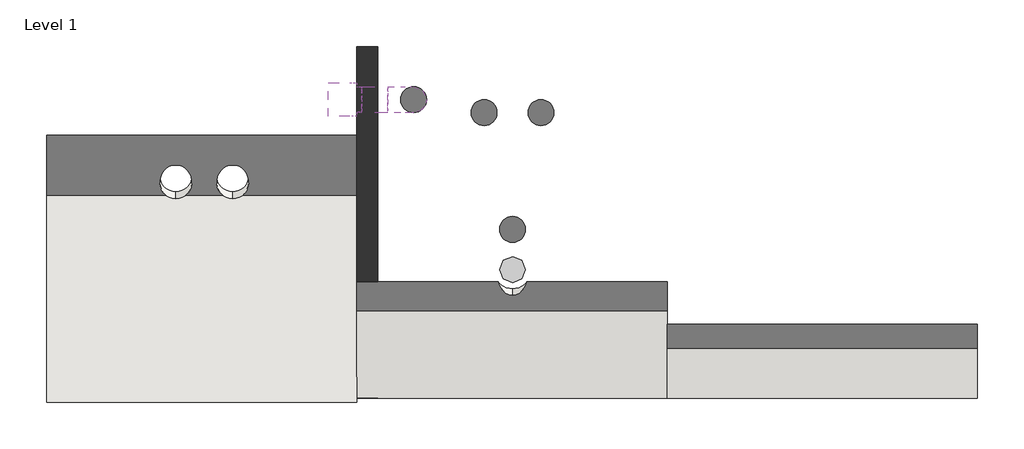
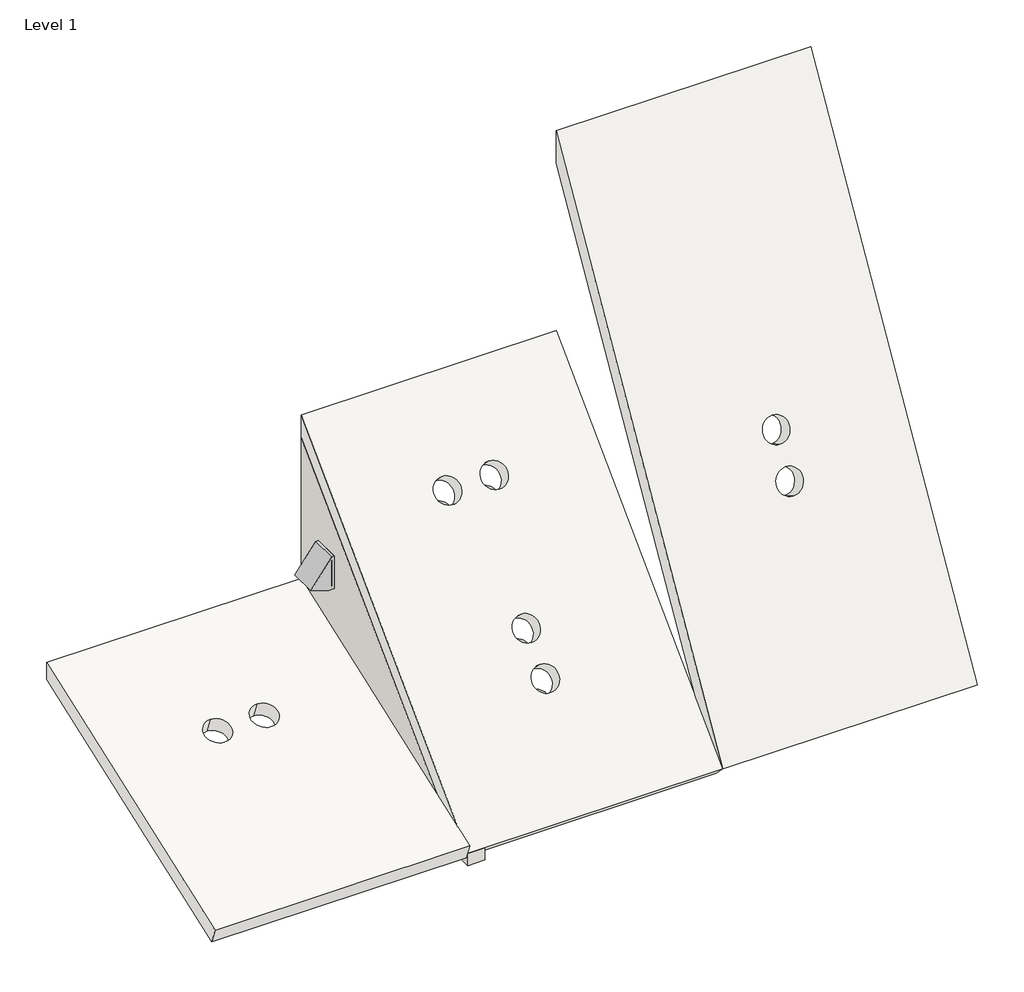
# One storey, incomplete: 6 duct segments, 3 roofs, 1 air terminal, 1 duct fitting, 1 wall.
"""IFC4 building model written with IfcOpenShell, lengths in millimetres."""

from ifc_helpers import new_model, si_unit, point, frame, frame_2d, origin, place, context, project, spatial, polyline, circle_curve, trimmed, segment, composite_curve, outline, extrude, transform, mapped, element, save
from ifc_brep_helpers import plane_surface, revolved_surface, advanced_brep
from components import air_terminal_0787e866, m_round_elbow_1_d_a3c698fd

model = new_model("IFC4")

# Units and contexts
model_context = context("Model", 3, world=origin())
ifc_project = project(units=[si_unit("LENGTHUNIT", "METRE", prefix="MILLI")], contexts=[model_context])

# Site, building, storey
site = spatial("IfcSite", under=ifc_project)
building = spatial("IfcBuilding", under=site)
storey = spatial("IfcBuildingStorey", under=building, Name="Level 1", Elevation=0.0)

# Air terminal
placement = place(None, origin())
air_terminal_shape = air_terminal_0787e866(model_context)
element("IfcAirTerminal", 1, ObjectType="NLRS_57_AIR_WPB_Elytra_WT_M&G : 324 x 404 x 278 - Ø 250 mm", at=placement, inside=storey, context=model_context, shape_type="MappedRepresentation", body=[
    mapped(air_terminal_shape, transform((6311.6571684, -3443.7612868, 2205.5429823), x_axis=(0.0, -1.0, 0.0), y_axis=(1.0, 0.0, 0.0), z_axis=(0.0, 0.0, 1.0))),
])

# Duct fitting
m_round_elbow_1_d_shape = m_round_elbow_1_d_a3c698fd(model_context)
element("IfcDuctFitting", 2, ObjectType="M_Round Elbow : 1 D", at=placement, inside=storey, context=model_context, shape_type="MappedRepresentation", body=[
    mapped(m_round_elbow_1_d_shape, transform((6860.6571684, -3443.7612868, 2205.5429823), x_axis=(1.0, 0.0, 0.0), y_axis=(0.0, 0.0, -1.0), z_axis=(0.0, 1.0, 0.0))),
])

# Duct segments
element("IfcDuctSegment", 3, ObjectType="Default", at=placement, inside=storey, context=model_context, shape_type="SweptSolid", body=[
    extrude(outline(composite_curve([segment(trimmed(circle_curve(frame_2d((7816.6039478, -5086.8196596)), 125.0), [point((7816.6039478, -4961.8196596))], [point((7941.6039478, -5086.8196596))], False, "CARTESIAN"), True, "CONTINUOUS"), segment(trimmed(circle_curve(frame_2d((7816.6039478, -5086.8196596)), 125.0), [point((7941.6039478, -5086.8196596))], [point((7816.6039478, -5211.8196596))], False, "CARTESIAN"), True, "CONTINUOUS"), segment(trimmed(circle_curve(frame_2d((7816.6039478, -5086.8196596)), 125.0), [point((7816.6039478, -5211.8196596))], [point((7691.6039478, -5086.8196596))], False, "CARTESIAN"), True, "CONTINUOUS"), segment(trimmed(circle_curve(frame_2d((7816.6039478, -5086.8196596)), 125.0), [point((7691.6039478, -5086.8196596))], [point((7816.6039478, -4961.8196596))], False, "CARTESIAN"), True, "CONTINUOUS")], self_intersect=False)), frame((0.0, 0.0, 285.3553391), z_axis=(0.0, 0.0, 1.0), x_axis=(1.0, 0.0, 0.0)), (0.0, 0.0, 1.0), 758.1917399),
])
element("IfcDuctSegment", 4, ObjectType="Default", at=placement, inside=storey, context=model_context, shape_type="SweptSolid", body=[
    extrude(outline(composite_curve([segment(trimmed(circle_curve(frame_2d((7816.6039478, -4697.9109299)), 125.0), [point((7816.6039478, -4572.9109299))], [point((7941.6039478, -4697.9109299))], False, "CARTESIAN"), True, "CONTINUOUS"), segment(trimmed(circle_curve(frame_2d((7816.6039478, -4697.9109299)), 125.0), [point((7941.6039478, -4697.9109299))], [point((7816.6039478, -4822.9109299))], False, "CARTESIAN"), True, "CONTINUOUS"), segment(trimmed(circle_curve(frame_2d((7816.6039478, -4697.9109299)), 125.0), [point((7816.6039478, -4822.9109299))], [point((7691.6039478, -4697.9109299))], False, "CARTESIAN"), True, "CONTINUOUS"), segment(trimmed(circle_curve(frame_2d((7816.6039478, -4697.9109299)), 125.0), [point((7691.6039478, -4697.9109299))], [point((7816.6039478, -4572.9109299))], False, "CARTESIAN"), True, "CONTINUOUS")], self_intersect=False)), frame((0.0, 0.0, 285.3553391), z_axis=(0.0, 0.0, 1.0), x_axis=(1.0, 0.0, 0.0)), (0.0, 0.0, 1.0), 1147.1004696),
])
element("IfcDuctSegment", 5, ObjectType="Default", at=placement, inside=storey, context=model_context, shape_type="SweptSolid", body=[
    extrude(outline(composite_curve([segment(trimmed(circle_curve(frame_2d((8091.6039478, -3568.7612868)), 125.0), [point((8091.6039478, -3443.7612868))], [point((8216.6039478, -3568.7612868))], False, "CARTESIAN"), True, "CONTINUOUS"), segment(trimmed(circle_curve(frame_2d((8091.6039478, -3568.7612868)), 125.0), [point((8216.6039478, -3568.7612868))], [point((8091.6039478, -3693.7612868))], False, "CARTESIAN"), True, "CONTINUOUS"), segment(trimmed(circle_curve(frame_2d((8091.6039478, -3568.7612868)), 125.0), [point((8091.6039478, -3693.7612868))], [point((7966.6039478, -3568.7612868))], False, "CARTESIAN"), True, "CONTINUOUS"), segment(trimmed(circle_curve(frame_2d((8091.6039478, -3568.7612868)), 125.0), [point((7966.6039478, -3568.7612868))], [point((8091.6039478, -3443.7612868))], False, "CARTESIAN"), True, "CONTINUOUS")], self_intersect=False)), frame((0.0, 0.0, 285.3553391), z_axis=(0.0, 0.0, 1.0), x_axis=(1.0, 0.0, 0.0)), (0.0, 0.0, 1.0), 2276.2501128),
])
element("IfcDuctSegment", 6, ObjectType="Default", at=placement, inside=storey, context=model_context, shape_type="SweptSolid", body=[
    extrude(outline(composite_curve([segment(trimmed(circle_curve(frame_2d((7541.6039478, -3568.7612868)), 125.0), [point((7541.6039478, -3443.7612868))], [point((7666.6039478, -3568.7612868))], False, "CARTESIAN"), True, "CONTINUOUS"), segment(trimmed(circle_curve(frame_2d((7541.6039478, -3568.7612868)), 125.0), [point((7666.6039478, -3568.7612868))], [point((7541.6039478, -3693.7612868))], False, "CARTESIAN"), True, "CONTINUOUS"), segment(trimmed(circle_curve(frame_2d((7541.6039478, -3568.7612868)), 125.0), [point((7541.6039478, -3693.7612868))], [point((7416.6039478, -3568.7612868))], False, "CARTESIAN"), True, "CONTINUOUS"), segment(trimmed(circle_curve(frame_2d((7541.6039478, -3568.7612868)), 125.0), [point((7416.6039478, -3568.7612868))], [point((7541.6039478, -3443.7612868))], False, "CARTESIAN"), True, "CONTINUOUS")], self_intersect=False)), frame((0.0, 0.0, 285.3553391), z_axis=(0.0, 0.0, 1.0), x_axis=(1.0, 0.0, 0.0)), (0.0, 0.0, 1.0), 2276.2501128),
])
element("IfcDuctSegment", 7, ObjectType="Default", at=placement, inside=storey, context=model_context, shape_type="SweptSolid", body=[
    extrude(outline(composite_curve([segment(trimmed(circle_curve(frame_2d((-3443.7612868, 2205.5429823)), 125.0), [point((-3568.7612868, 2205.5429823))], [point((-3443.7612868, 2330.5429823))], False, "CARTESIAN"), True, "CONTINUOUS"), segment(trimmed(circle_curve(frame_2d((-3443.7612868, 2205.5429823)), 125.0), [point((-3443.7612868, 2330.5429823))], [point((-3318.7612868, 2205.5429823))], False, "CARTESIAN"), True, "CONTINUOUS"), segment(trimmed(circle_curve(frame_2d((-3443.7612868, 2205.5429823)), 125.0), [point((-3318.7612868, 2205.5429823))], [point((-3443.7612868, 2080.5429823))], False, "CARTESIAN"), True, "CONTINUOUS"), segment(trimmed(circle_curve(frame_2d((-3443.7612868, 2205.5429823)), 125.0), [point((-3443.7612868, 2080.5429823))], [point((-3568.7612868, 2205.5429823))], False, "CARTESIAN"), True, "CONTINUOUS")], self_intersect=False)), frame((6360.6571684, 0.0, 0.0), z_axis=(1.0, 0.0, 0.0), x_axis=(0.0, 1.0, 0.0)), (0.0, 0.0, 1.0), 250.0),
])
element("IfcDuctSegment", 8, ObjectType="Default", at=placement, inside=storey, context=model_context, shape_type="SweptSolid", body=[
    extrude(outline(composite_curve([segment(trimmed(circle_curve(frame_2d((6860.6571684, -3443.7612868)), 125.0), [point((6860.6571684, -3318.7612868))], [point((6985.6571684, -3443.7612868))], False, "CARTESIAN"), True, "CONTINUOUS"), segment(trimmed(circle_curve(frame_2d((6860.6571684, -3443.7612868)), 125.0), [point((6985.6571684, -3443.7612868))], [point((6860.6571684, -3568.7612868))], False, "CARTESIAN"), True, "CONTINUOUS"), segment(trimmed(circle_curve(frame_2d((6860.6571684, -3443.7612868)), 125.0), [point((6860.6571684, -3568.7612868))], [point((6735.6571684, -3443.7612868))], False, "CARTESIAN"), True, "CONTINUOUS"), segment(trimmed(circle_curve(frame_2d((6860.6571684, -3443.7612868)), 125.0), [point((6735.6571684, -3443.7612868))], [point((6860.6571684, -3318.7612868))], False, "CARTESIAN"), True, "CONTINUOUS")], self_intersect=False)), frame((0.0, 0.0, 285.3553391), z_axis=(0.0, 0.0, 1.0), x_axis=(1.0, 0.0, 0.0)), (0.0, 0.0, 1.0), 1670.1876432),
])

# Roofs
element("IfcRoof", 9, ObjectType="Roof 1", at=placement, inside=storey, context=model_context, shape_type="AdvancedBrep", body=[
    advanced_brep(
    [(9311.6571684, -2930.1684687, 3759.1192285), (9311.6571684, -6330.1684687, 359.1192285), (9311.6571684, -6188.7471125, 217.6978723), (9311.6571684, -2930.1684687, 3476.276516), (6311.6571684, -6330.1684687, 359.1192285), (6311.6571684, -2930.1684687, 3759.1192285), (6311.6571684, -2930.1684687, 3476.276516), (6311.6571684, -6188.7471125, 217.6978723), (7816.6039478, -5192.17857, 1497.1091272), (7816.6039478, -5411.3816722, 1277.9060251), (7816.6039478, -4803.2698403, 1886.0178569), (7816.6039478, -5022.4729425, 1666.8147547), (7541.6039478, -3674.1201972, 3015.1675001), (7541.6039478, -3893.3232993, 2795.9643979), (8091.6039478, -3674.1201972, 3015.1675001), (8091.6039478, -3893.3232993, 2795.9643979), (6511.6571684, -2930.1684687, 3476.276516), (6511.6571684, -6188.7471125, 217.6978723), (7816.6039478, -5269.9603159, 1136.4846688), (7816.6039478, -5050.7572138, 1355.687771), (7816.6039478, -4881.0515863, 1525.3933985), (7816.6039478, -4661.8484841, 1744.5965006), (7541.6039478, -3751.9019431, 2654.5430417), (7541.6039478, -3532.6988409, 2873.7461438), (8091.6039478, -3751.9019431, 2654.5430417), (8091.6039478, -3532.6988409, 2873.7461438)],
    [
        (0, 1),
        (1, 2),
        (2, 3),
        (3, 0),
        (4, 5),
        (5, 6),
        (6, 7),
        (7, 4),
        (0, 5),
        (4, 1),
        (8, 9, circle_curve(frame((7816.6039478, -5301.7801211, 1387.5075761), z_axis=(0.0, 0.707106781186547, -0.707106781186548), x_axis=(0.0, -0.707106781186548, -0.707106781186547)), 155.0)),
        (9, 8, circle_curve(frame((7816.6039478, -5301.7801211, 1387.5075761), z_axis=(0.0, 0.707106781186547, -0.707106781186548), x_axis=(0.0, -0.707106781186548, -0.707106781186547)), 155.0)),
        (10, 11, circle_curve(frame((7816.6039478, -4912.8713914, 1776.4163058), z_axis=(0.0, 0.707106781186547, -0.707106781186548), x_axis=(0.0, -0.707106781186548, -0.707106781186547)), 155.0)),
        (11, 10, circle_curve(frame((7816.6039478, -4912.8713914, 1776.4163058), z_axis=(0.0, 0.707106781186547, -0.707106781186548), x_axis=(0.0, -0.707106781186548, -0.707106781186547)), 155.0)),
        (12, 13, circle_curve(frame((7541.6039478, -3783.7217482, 2905.565949), z_axis=(0.0, 0.707106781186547, -0.707106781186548), x_axis=(0.0, -0.707106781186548, -0.707106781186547)), 155.0)),
        (13, 12, circle_curve(frame((7541.6039478, -3783.7217482, 2905.565949), z_axis=(0.0, 0.707106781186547, -0.707106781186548), x_axis=(0.0, -0.707106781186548, -0.707106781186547)), 155.0)),
        (14, 15, circle_curve(frame((8091.6039478, -3783.7217482, 2905.565949), z_axis=(0.0, 0.707106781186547, -0.707106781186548), x_axis=(0.0, -0.707106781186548, -0.707106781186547)), 155.0)),
        (15, 14, circle_curve(frame((8091.6039478, -3783.7217482, 2905.565949), z_axis=(0.0, 0.707106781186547, -0.707106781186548), x_axis=(0.0, -0.707106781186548, -0.707106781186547)), 155.0)),
        (6, 16),
        (16, 3),
        (2, 17),
        (17, 7),
        (18, 19, circle_curve(frame((7816.6039478, -5160.3587648, 1246.0862199), z_axis=(0.0, -0.707106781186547, 0.707106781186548), x_axis=(0.0, -0.707106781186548, -0.707106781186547)), 155.0)),
        (19, 18, circle_curve(frame((7816.6039478, -5160.3587648, 1246.0862199), z_axis=(0.0, -0.707106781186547, 0.707106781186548), x_axis=(0.0, -0.707106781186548, -0.707106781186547)), 155.0)),
        (20, 21, circle_curve(frame((7816.6039478, -4771.4500352, 1634.9949496), z_axis=(0.0, -0.707106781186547, 0.707106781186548), x_axis=(0.0, -0.707106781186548, -0.707106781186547)), 155.0)),
        (21, 20, circle_curve(frame((7816.6039478, -4771.4500352, 1634.9949496), z_axis=(0.0, -0.707106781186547, 0.707106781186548), x_axis=(0.0, -0.707106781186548, -0.707106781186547)), 155.0)),
        (22, 23, circle_curve(frame((7541.6039478, -3642.300392, 2764.1445927), z_axis=(0.0, -0.707106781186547, 0.707106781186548), x_axis=(0.0, -0.707106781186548, -0.707106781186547)), 155.0)),
        (23, 22, circle_curve(frame((7541.6039478, -3642.300392, 2764.1445927), z_axis=(0.0, -0.707106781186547, 0.707106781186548), x_axis=(0.0, -0.707106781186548, -0.707106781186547)), 155.0)),
        (24, 25, circle_curve(frame((8091.6039478, -3642.300392, 2764.1445927), z_axis=(0.0, -0.707106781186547, 0.707106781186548), x_axis=(0.0, -0.707106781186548, -0.707106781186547)), 155.0)),
        (25, 24, circle_curve(frame((8091.6039478, -3642.300392, 2764.1445927), z_axis=(0.0, -0.707106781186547, 0.707106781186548), x_axis=(0.0, -0.707106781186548, -0.707106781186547)), 155.0)),
        (18, 9),
        (8, 19),
        (20, 11),
        (10, 21),
        (22, 13),
        (12, 23),
        (24, 15),
        (14, 25),
    ],
    [
        plane_surface(frame((9311.6571684, -6457.3033668, 231.9843304), z_axis=(1.0, 0.0, 0.0), x_axis=(0.0, -0.707106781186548, -0.707106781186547))),
        plane_surface(frame((6311.6571684, -6457.3033668, 231.9843304), z_axis=(-1.0, 0.0, 0.0), x_axis=(0.0, 0.707106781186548, 0.707106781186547))),
        plane_surface(frame((9311.6571684, -2930.1684687, 3759.1192285), z_axis=(0.0, -0.707106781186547, 0.707106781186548), x_axis=(-1.0, 0.0, 0.0))),
        plane_surface(frame((9311.6571684, -6330.1684687, 76.276516), z_axis=(0.0, 0.707106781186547, -0.707106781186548), x_axis=(-1.0, 0.0, 0.0))),
        plane_surface(frame((9311.6571684, -2930.1684687, 3476.276516), z_axis=(0.0, 1.0, 0.0), x_axis=(-1.0, 0.0, 0.0))),
        plane_surface(frame((6311.6571684, -6330.1684687, 359.1192285), z_axis=(0.0, -0.7071067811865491, -0.7071067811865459), x_axis=(1.0, 0.0, 0.0))),
        revolved_surface(polyline([(7816.6039478, -5269.960315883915, 1136.484668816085), (7816.6039478, -5411.381672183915, 1277.9060251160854)]), (7816.6039478, -5160.3587648, 1246.0862199), (0.0, 0.707106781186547, -0.707106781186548)),
        revolved_surface(polyline([(7816.6039478, -4881.051586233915, 1525.3933984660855), (7816.6039478, -5022.472942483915, 1666.8147547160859)]), (7816.6039478, -4771.4500352, 1634.9949496), (0.0, 0.707106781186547, -0.707106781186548)),
        revolved_surface(polyline([(7541.6039478, -3751.901943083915, 2654.5430416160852), (7541.6039478, -3893.3232993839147, 2795.964397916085)]), (7541.6039478, -3642.300392, 2764.1445927), (0.0, 0.707106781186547, -0.707106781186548)),
        revolved_surface(polyline([(8091.6039478, -3751.901943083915, 2654.5430416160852), (8091.6039478, -3893.3232993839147, 2795.964397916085)]), (8091.6039478, -3642.300392, 2764.1445927), (0.0, 0.707106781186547, -0.707106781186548)),
    ],
    [
        (0, [[1, 2, 3, 4]]),
        (1, [[5, 6, 7, 8]]),
        (2, [[-1, 9, -5, 10], [11, 12], [13, 14], [15, 16], [17, 18]]),
        (3, [[19, 20, -3, 21, 22, -7], [23, 24], [25, 26], [27, 28], [29, 30]]),
        (4, [[-4, -20, -19, -6, -9]]),
        (5, [[-2, -10, -8, -22, -21]]),
        (6, [[31, -11, 32, -23]]),
        (6, [[-31, -24, -32, -12]]),
        (7, [[33, -13, 34, -25]]),
        (7, [[-33, -26, -34, -14]]),
        (8, [[35, -15, 36, -27]]),
        (8, [[-35, -28, -36, -16]]),
        (9, [[37, -17, 38, -29]]),
        (9, [[-37, -30, -38, -18]]),
    ],
),
])
element("IfcRoof", 10, ObjectType="Roof 1", at=placement, inside=storey, context=model_context, shape_type="AdvancedBrep", body=[
    advanced_brep(
    [(12311.6571684, -2930.1684687, 6248.0919742), (12311.6571684, -6330.1684687, 359.1192285), (12311.6571684, -6156.963388, 259.1192285), (12311.6571684, -2930.1684687, 5848.0919742), (9311.6571684, -6330.1684687, 359.1192285), (9311.6571684, -2930.1684687, 6248.0919742), (9311.6571684, -2930.1684687, 5848.0919742), (9311.6571684, -6156.963388, 259.1192285), (10852.3867815, -4950.1684687, 2749.3493429), (10852.3867815, -5105.1684687, 2480.8814678), (10852.3867815, -4675.1684687, 3225.663315), (10852.3867815, -4830.1684687, 2957.1954398), (10852.3867815, -4931.963388, 2380.8814678), (10852.3867815, -4776.963388, 2649.3493429), (10852.3867815, -4656.963388, 2857.1954398), (10852.3867815, -4501.963388, 3125.663315)],
    [
        (0, 1),
        (1, 2),
        (2, 3),
        (3, 0),
        (4, 5),
        (5, 6),
        (6, 7),
        (7, 4),
        (0, 5),
        (4, 1),
        (8, 9, circle_curve(frame((10852.3867815, -5027.6684687, 2615.1154054), z_axis=(0.0, 0.866025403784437, -0.500000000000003), x_axis=(0.0, -0.500000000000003, -0.866025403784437)), 155.0)),
        (9, 8, circle_curve(frame((10852.3867815, -5027.6684687, 2615.1154054), z_axis=(0.0, 0.866025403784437, -0.500000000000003), x_axis=(0.0, -0.500000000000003, -0.866025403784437)), 155.0)),
        (10, 11, circle_curve(frame((10852.3867815, -4752.6684687, 3091.4293774), z_axis=(0.0, 0.866025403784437, -0.500000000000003), x_axis=(0.0, -0.500000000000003, -0.866025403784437)), 155.0)),
        (11, 10, circle_curve(frame((10852.3867815, -4752.6684687, 3091.4293774), z_axis=(0.0, 0.866025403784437, -0.500000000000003), x_axis=(0.0, -0.500000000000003, -0.866025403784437)), 155.0)),
        (6, 3),
        (2, 7),
        (12, 13, circle_curve(frame((10852.3867815, -4854.463388, 2515.1154054), z_axis=(0.0, -0.866025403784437, 0.500000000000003), x_axis=(0.0, -0.500000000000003, -0.866025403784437)), 155.0)),
        (13, 12, circle_curve(frame((10852.3867815, -4854.463388, 2515.1154054), z_axis=(0.0, -0.866025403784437, 0.500000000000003), x_axis=(0.0, -0.500000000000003, -0.866025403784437)), 155.0)),
        (14, 15, circle_curve(frame((10852.3867815, -4579.463388, 2991.4293774), z_axis=(0.0, -0.866025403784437, 0.500000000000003), x_axis=(0.0, -0.500000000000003, -0.866025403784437)), 155.0)),
        (15, 14, circle_curve(frame((10852.3867815, -4579.463388, 2991.4293774), z_axis=(0.0, -0.866025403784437, 0.500000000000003), x_axis=(0.0, -0.500000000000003, -0.866025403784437)), 155.0)),
        (12, 9),
        (8, 13),
        (14, 11),
        (10, 15),
    ],
    [
        plane_surface(frame((12311.6571684, -6330.1684687, 359.1192285), z_axis=(1.0000000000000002, 0.0, 0.0), x_axis=(0.0, -0.500000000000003, -0.866025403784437))),
        plane_surface(frame((9311.6571684, -6330.1684687, 359.1192285), z_axis=(-1.0000000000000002, 0.0, 0.0), x_axis=(0.0, 0.500000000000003, 0.866025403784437))),
        plane_surface(frame((12311.6571684, -2930.1684687, 6248.0919742), z_axis=(0.0, -0.866025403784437, 0.500000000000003), x_axis=(-1.0, 0.0, 0.0))),
        plane_surface(frame((12311.6571684, -6330.1684687, -40.8807715), z_axis=(0.0, 0.866025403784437, -0.500000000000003), x_axis=(-1.0, 0.0, 0.0))),
        plane_surface(frame((12311.6571684, -2930.1684687, 5848.0919742), z_axis=(0.0, 1.0, 0.0), x_axis=(-1.0, 0.0, 0.0))),
        plane_surface(frame((9311.6571684, -6330.1684687, 359.1192285), z_axis=(0.0, -0.5000000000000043, -0.8660254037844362), x_axis=(1.0, 0.0, 0.0))),
        revolved_surface(polyline([(10852.3867815, -4931.963387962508, 2380.8814677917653), (10852.3867815, -5105.168468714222, 2480.8814677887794)]), (10852.3867815, -4854.463388, 2515.1154054), (0.0, 0.866025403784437, -0.500000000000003)),
        revolved_surface(polyline([(10852.3867815, -4656.963387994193, 2857.195439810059), (10852.3867815, -4830.16846872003, 2957.1954397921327)]), (10852.3867815, -4579.463388, 2991.4293774), (0.0, 0.866025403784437, -0.500000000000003)),
    ],
    [
        (0, [[1, 2, 3, 4]]),
        (1, [[5, 6, 7, 8]]),
        (2, [[-1, 9, -5, 10], [11, 12], [13, 14]]),
        (3, [[15, -3, 16, -7], [17, 18], [19, 20]]),
        (4, [[-4, -15, -6, -9]]),
        (5, [[-2, -10, -8, -16]]),
        (6, [[21, -11, 22, -17]]),
        (6, [[-21, -18, -22, -12]]),
        (7, [[23, -13, 24, -19]]),
        (7, [[-23, -20, -24, -14]]),
    ],
),
])
element("IfcRoof", 11, ObjectType="Roof 1", at=placement, inside=storey, context=model_context, shape_type="AdvancedBrep", body=[
    advanced_brep(
    [(6311.6571684, -2930.1684687, 1725.3103422), (6311.6571684, -6366.5678323, 474.5632608), (6311.6571684, -6298.1638036, 286.6247366), (6311.6571684, -2930.1684687, 1512.4747877), (3311.6571684, -6366.5678323, 474.5632608), (3311.6571684, -2930.1684687, 1725.3103422), (3311.6571684, -2930.1684687, 1512.4747877), (3311.6571684, -6298.1638036, 286.6247366), (4561.0073445, -4110.2752519, 1295.7865998), (4561.0073445, -4401.5799644, 1189.7603554), (5111.0073445, -4110.2752519, 1295.7865998), (5111.0073445, -4401.5799644, 1189.7603554), (4561.0073445, -4333.1759357, 1001.8218313), (4561.0073445, -4041.8712233, 1107.8480757), (5111.0073445, -4333.1759357, 1001.8218313), (5111.0073445, -4041.8712233, 1107.8480757)],
    [
        (0, 1),
        (1, 2),
        (2, 3),
        (3, 0),
        (4, 5),
        (5, 6),
        (6, 7),
        (7, 4),
        (0, 5),
        (4, 1),
        (8, 9, circle_curve(frame((4561.0073445, -4255.9276082, 1242.7734776), z_axis=(0.0, 0.3420201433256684, -0.9396926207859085), x_axis=(0.0, -0.9396926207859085, -0.3420201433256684)), 155.0)),
        (9, 8, circle_curve(frame((4561.0073445, -4255.9276082, 1242.7734776), z_axis=(0.0, 0.3420201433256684, -0.9396926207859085), x_axis=(0.0, -0.9396926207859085, -0.3420201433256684)), 155.0)),
        (10, 11, circle_curve(frame((5111.0073445, -4255.9276082, 1242.7734776), z_axis=(0.0, 0.3420201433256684, -0.9396926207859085), x_axis=(0.0, -0.9396926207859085, -0.3420201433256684)), 155.0)),
        (11, 10, circle_curve(frame((5111.0073445, -4255.9276082, 1242.7734776), z_axis=(0.0, 0.3420201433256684, -0.9396926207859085), x_axis=(0.0, -0.9396926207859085, -0.3420201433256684)), 155.0)),
        (2, 7),
        (6, 3),
        (12, 13, circle_curve(frame((4561.0073445, -4187.5235795, 1054.8349535), z_axis=(0.0, -0.3420201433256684, 0.9396926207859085), x_axis=(0.0, -0.9396926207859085, -0.3420201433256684)), 155.0)),
        (13, 12, circle_curve(frame((4561.0073445, -4187.5235795, 1054.8349535), z_axis=(0.0, -0.3420201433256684, 0.9396926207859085), x_axis=(0.0, -0.9396926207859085, -0.3420201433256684)), 155.0)),
        (14, 15, circle_curve(frame((5111.0073445, -4187.5235795, 1054.8349535), z_axis=(0.0, -0.3420201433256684, 0.9396926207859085), x_axis=(0.0, -0.9396926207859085, -0.3420201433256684)), 155.0)),
        (15, 14, circle_curve(frame((5111.0073445, -4187.5235795, 1054.8349535), z_axis=(0.0, -0.3420201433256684, 0.9396926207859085), x_axis=(0.0, -0.9396926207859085, -0.3420201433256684)), 155.0)),
        (12, 9),
        (8, 13),
        (14, 11),
        (10, 15),
    ],
    [
        plane_surface(frame((6311.6571684, -6412.6169072, 457.8027682), z_axis=(1.0, 0.0, 0.0), x_axis=(0.0, -0.9396926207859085, -0.3420201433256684))),
        plane_surface(frame((3311.6571684, -6412.6169072, 457.8027682), z_axis=(-1.0, 0.0, 0.0), x_axis=(0.0, 0.9396926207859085, 0.3420201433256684))),
        plane_surface(frame((6311.6571684, -2930.1684687, 1725.3103422), z_axis=(0.0, -0.3420201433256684, 0.9396926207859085), x_axis=(-1.0, 0.0, 0.0))),
        plane_surface(frame((6311.6571684, -6366.5678323, 261.7277063), z_axis=(0.0, 0.3420201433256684, -0.9396926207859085), x_axis=(-1.0, 0.0, 0.0))),
        plane_surface(frame((3311.6571684, -6366.5678323, 474.5632608), z_axis=(0.0, -0.9396926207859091, -0.3420201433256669), x_axis=(1.0, 0.0, 0.0))),
        plane_surface(frame((6311.6571684, -2930.1684687, 1512.4747877), z_axis=(0.0, 1.0, 0.0), x_axis=(-1.0, 0.0, 0.0))),
        revolved_surface(polyline([(4561.0073445, -4333.175935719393, 1001.821831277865), (4561.0073445, -4401.579964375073, 1189.7603554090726)]), (4561.0073445, -4187.5235795, 1054.8349535), (0.0, 0.3420201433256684, -0.9396926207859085)),
        revolved_surface(polyline([(5111.0073445, -4333.175935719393, 1001.821831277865), (5111.0073445, -4401.579964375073, 1189.7603554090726)]), (5111.0073445, -4187.5235795, 1054.8349535), (0.0, 0.3420201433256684, -0.9396926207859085)),
    ],
    [
        (0, [[1, 2, 3, 4]]),
        (1, [[5, 6, 7, 8]]),
        (2, [[-1, 9, -5, 10], [11, 12], [13, 14]]),
        (3, [[-3, 15, -7, 16], [17, 18], [19, 20]]),
        (4, [[-2, -10, -8, -15]]),
        (5, [[-4, -16, -6, -9]]),
        (6, [[21, -11, 22, -17]]),
        (6, [[-21, -18, -22, -12]]),
        (7, [[23, -13, 24, -19]]),
        (7, [[-23, -20, -24, -14]]),
    ],
),
])

# Wall
element("IfcWall", 12, ObjectType="Wall 1", at=placement, inside=storey, context=model_context, shape_type="SweptSolid", body=[
    extrude(outline(polyline([(-2930.1684687, 206.5276541), (-6330.1684687, 206.5276541), (-6330.1684687, 359.1192285), (-6188.7471125, 217.6978723), (-2930.1684687, 3476.276516), (-2930.1684687, 206.5276541)]), holes=[composite_curve([segment(trimmed(circle_curve(frame_2d((-3443.7612868, 2205.5429823)), 125.0), [point((-3318.7612868, 2205.5429823))], [point((-3568.7612868, 2205.5429823))], True, "CARTESIAN"), True, "CONTINUOUS"), segment(trimmed(circle_curve(frame_2d((-3443.7612868, 2205.5429823)), 125.0), [point((-3568.7612868, 2205.5429823))], [point((-3318.7612868, 2205.5429823))], True, "CARTESIAN"), True, "CONTINUOUS")], self_intersect=False)]), frame((6311.6571684, 0.0, 0.0), z_axis=(1.0, 0.0, 0.0), x_axis=(0.0, 1.0, 0.0)), (0.0, 0.0, 1.0), 200.0),
])

save(model, "model.ifc")
